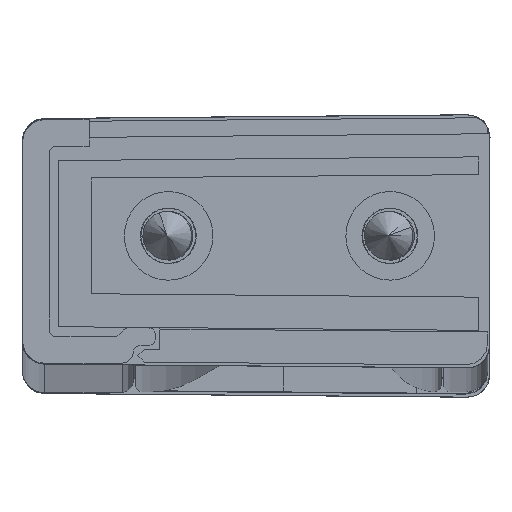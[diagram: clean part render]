
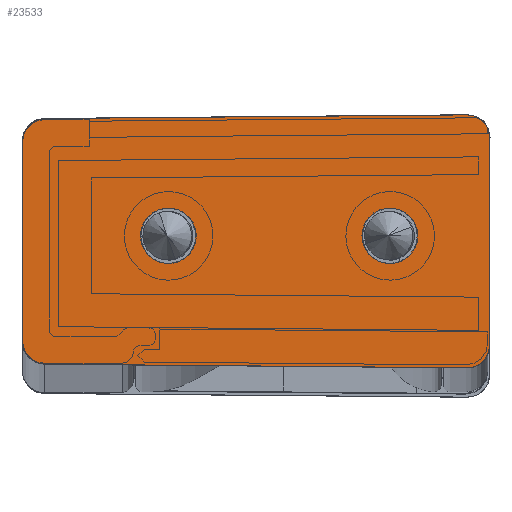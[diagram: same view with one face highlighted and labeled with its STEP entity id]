
A CAD part, top view. The second image highlights one B-rep face of the part: STEP entity #23533.
In plain terms, the highlighted planar face has unit normal (-0.009, 0, 1) as drawn and (0.009, 0, -1) by its records, which use the part's own axes.
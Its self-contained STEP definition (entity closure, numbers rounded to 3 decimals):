
#92 = CIRCLE ( 'NONE', #8722, 1. ) ;
#744 = CARTESIAN_POINT ( 'NONE',  ( 19.635, 9.395, -2.995 ) ) ;
#909 = CARTESIAN_POINT ( 'NONE',  ( 20.626, 8.395, -2.986 ) ) ;
#1184 =( BOUNDED_CURVE ( )  B_SPLINE_CURVE ( 3, ( #6183, #3702, #3490, #28652 ),
 .UNSPECIFIED., .F., .F. ) 
 B_SPLINE_CURVE_WITH_KNOTS ( ( 4, 4 ),
 ( 3.142, 4.704 ),
 .UNSPECIFIED. ) 
 CURVE ( )  GEOMETRIC_REPRESENTATION_ITEM ( )  RATIONAL_B_SPLINE_CURVE ( ( 1., 0.807, 0.807, 1. ) ) 
 REPRESENTATION_ITEM ( '' )  );
#1865 = EDGE_CURVE ( 'NONE', #6207, #10435, #14416, .T. ) ;
#2143 = CARTESIAN_POINT ( 'NONE',  ( 20.626, -0.695, -2.986 ) ) ;
#2230 = DIRECTION ( 'NONE',  ( 1., 0., 0.009 ) ) ;
#2449 = CARTESIAN_POINT ( 'NONE',  ( 14.033, 4.1, -3.043 ) ) ;
#2500 = LINE ( 'NONE', #37637, #38411 ) ;
#2682 = ORIENTED_EDGE ( 'NONE', *, *, #13259, .F. ) ;
#2705 = DIRECTION ( 'NONE',  ( 1., 0.009, 0.009 ) ) ;
#3447 = EDGE_CURVE ( 'NONE', #10435, #33207, #12596, .T. ) ;
#3490 = CARTESIAN_POINT ( 'NONE',  ( 20.217, 9.39, -2.989 ) ) ;
#3702 = CARTESIAN_POINT ( 'NONE',  ( 20.626, 8.976, -2.986 ) ) ;
#3894 = CARTESIAN_POINT ( 'NONE',  ( 20.217, -1.69, -2.989 ) ) ;
#4763 = CARTESIAN_POINT ( 'NONE',  ( 4.033, 4.1, -3.131 ) ) ;
#5516 = ORIENTED_EDGE ( 'NONE', *, *, #6646, .T. ) ;
#6183 = CARTESIAN_POINT ( 'NONE',  ( 20.626, 8.395, -2.986 ) ) ;
#6207 = VERTEX_POINT ( 'NONE', #16642 ) ;
#6412 = EDGE_LOOP ( 'NONE', ( #14484, #19732 ) ) ;
#6646 = EDGE_CURVE ( 'NONE', #7907, #18908, #28391, .T. ) ;
#6791 = CARTESIAN_POINT ( 'NONE',  ( 19.635, -1.695, -2.995 ) ) ;
#7229 = CARTESIAN_POINT ( 'NONE',  ( 0.526, 8.561, -3.161 ) ) ;
#7337 = CIRCLE ( 'NONE', #30548, 1.25 ) ;
#7907 = VERTEX_POINT ( 'NONE', #8871 ) ;
#8722 = AXIS2_PLACEMENT_3D ( 'NONE', #36938, #36539, #36347 ) ;
#8871 = CARTESIAN_POINT ( 'NONE',  ( 15.283, 4.1, -3.033 ) ) ;
#9607 = EDGE_CURVE ( 'NONE', #23650, #39837, #7337, .T. ) ;
#10315 = CARTESIAN_POINT ( 'NONE',  ( 5.283, 4.1, -3.12 ) ) ;
#10435 = VERTEX_POINT ( 'NONE', #14123 ) ;
#11215 = EDGE_CURVE ( 'NONE', #33207, #40364, #92, .T. ) ;
#11464 = VECTOR ( 'NONE', #28226, 1000. ) ;
#11579 = VERTEX_POINT ( 'NONE', #24595 ) ;
#11956 = DIRECTION ( 'NONE',  ( 1., 0., 0.009 ) ) ;
#12201 = DIRECTION ( 'NONE',  ( 1., 0., 0.009 ) ) ;
#12373 = FACE_BOUND ( 'NONE', #36930, .T. ) ;
#12596 = LINE ( 'NONE', #21768, #11464 ) ;
#13259 = EDGE_CURVE ( 'NONE', #38438, #6207, #20279, .T. ) ;
#13602 = VERTEX_POINT ( 'NONE', #909 ) ;
#14123 = CARTESIAN_POINT ( 'NONE',  ( -0.474, 8.561, -3.17 ) ) ;
#14311 = DIRECTION ( 'NONE',  ( 1., 0., 0.009 ) ) ;
#14416 = CIRCLE ( 'NONE', #25050, 1. ) ;
#14484 = ORIENTED_EDGE ( 'NONE', *, *, #9607, .T. ) ;
#14514 = DIRECTION ( 'NONE',  ( -0.009, 0., 1. ) ) ;
#15214 = DIRECTION ( 'NONE',  ( 0., 1., 0. ) ) ;
#15511 = FACE_BOUND ( 'NONE', #6412, .T. ) ;
#16473 = DIRECTION ( 'NONE',  ( 1., 0., 0.009 ) ) ;
#16642 = CARTESIAN_POINT ( 'NONE',  ( 0.535, 9.561, -3.161 ) ) ;
#17285 = DIRECTION ( 'NONE',  ( -0.009, 0., 1. ) ) ;
#17472 = EDGE_CURVE ( 'NONE', #19464, #11579, #19342, .T. ) ;
#17998 = DIRECTION ( 'NONE',  ( -0.009, 0., 1. ) ) ;
#18845 = CIRCLE ( 'NONE', #22193, 1.25 ) ;
#18908 = VERTEX_POINT ( 'NONE', #40757 ) ;
#19342 =( BOUNDED_CURVE ( )  B_SPLINE_CURVE ( 3, ( #6791, #3894, #35487, #22990 ),
 .UNSPECIFIED., .F., .F. ) 
 B_SPLINE_CURVE_WITH_KNOTS ( ( 4, 4 ),
 ( 1.58, 3.142 ),
 .UNSPECIFIED. ) 
 CURVE ( )  GEOMETRIC_REPRESENTATION_ITEM ( )  RATIONAL_B_SPLINE_CURVE ( ( 1., 0.807, 0.807, 1. ) ) 
 REPRESENTATION_ITEM ( '' )  );
#19464 = VERTEX_POINT ( 'NONE', #31141 ) ;
#19732 = ORIENTED_EDGE ( 'NONE', *, *, #31811, .T. ) ;
#19865 = DIRECTION ( 'NONE',  ( 1., 0., 0.009 ) ) ;
#20279 = LINE ( 'NONE', #744, #27121 ) ;
#20355 = ORIENTED_EDGE ( 'NONE', *, *, #38941, .F. ) ;
#21166 = DIRECTION ( 'NONE',  ( -0.009, 0., 1. ) ) ;
#21439 = AXIS2_PLACEMENT_3D ( 'NONE', #4763, #14514, #14311 ) ;
#21605 = CARTESIAN_POINT ( 'NONE',  ( 19.635, 9.395, -2.995 ) ) ;
#21725 = AXIS2_PLACEMENT_3D ( 'NONE', #28215, #40499, #11956 ) ;
#21768 = CARTESIAN_POINT ( 'NONE',  ( -0.474, 8.561, -3.17 ) ) ;
#22193 = AXIS2_PLACEMENT_3D ( 'NONE', #29585, #17285, #16473 ) ;
#22224 = DIRECTION ( 'NONE',  ( -1., 0.009, -0.009 ) ) ;
#22990 = CARTESIAN_POINT ( 'NONE',  ( 20.626, -0.695, -2.986 ) ) ;
#23140 = CARTESIAN_POINT ( 'NONE',  ( 0.535, -1.861, -3.161 ) ) ;
#23533 = ADVANCED_FACE ( 'NONE', ( #12373, #15511, #27792 ), #24240, .F. ) ;
#23650 = VERTEX_POINT ( 'NONE', #10315 ) ;
#23998 = DIRECTION ( 'NONE',  ( -0.009, 0., 1. ) ) ;
#24033 = ORIENTED_EDGE ( 'NONE', *, *, #35529, .F. ) ;
#24240 = PLANE ( 'NONE',  #21725 ) ;
#24595 = CARTESIAN_POINT ( 'NONE',  ( 20.626, -0.695, -2.986 ) ) ;
#25050 = AXIS2_PLACEMENT_3D ( 'NONE', #7229, #23998, #19865 ) ;
#25355 = ORIENTED_EDGE ( 'NONE', *, *, #17472, .F. ) ;
#27121 = VECTOR ( 'NONE', #22224, 1000. ) ;
#27792 = FACE_OUTER_BOUND ( 'NONE', #31954, .T. ) ;
#28011 = EDGE_CURVE ( 'NONE', #40364, #19464, #2500, .T. ) ;
#28215 = CARTESIAN_POINT ( 'NONE',  ( 19.626, 8.395, -2.995 ) ) ;
#28226 = DIRECTION ( 'NONE',  ( 0., -1., 0. ) ) ;
#28391 = CIRCLE ( 'NONE', #35697, 1.25 ) ;
#28652 = CARTESIAN_POINT ( 'NONE',  ( 19.635, 9.395, -2.995 ) ) ;
#29337 = CARTESIAN_POINT ( 'NONE',  ( -0.474, -0.861, -3.17 ) ) ;
#29585 = CARTESIAN_POINT ( 'NONE',  ( 14.033, 4.1, -3.043 ) ) ;
#30392 = ORIENTED_EDGE ( 'NONE', *, *, #3447, .F. ) ;
#30548 = AXIS2_PLACEMENT_3D ( 'NONE', #31162, #21166, #12201 ) ;
#31141 = CARTESIAN_POINT ( 'NONE',  ( 19.635, -1.695, -2.995 ) ) ;
#31161 = CARTESIAN_POINT ( 'NONE',  ( 2.783, 4.1, -3.142 ) ) ;
#31162 = CARTESIAN_POINT ( 'NONE',  ( 4.033, 4.1, -3.131 ) ) ;
#31765 = ORIENTED_EDGE ( 'NONE', *, *, #11215, .F. ) ;
#31811 = EDGE_CURVE ( 'NONE', #39837, #23650, #38105, .T. ) ;
#31954 = EDGE_LOOP ( 'NONE', ( #24033, #20355, #25355, #32829, #31765, #30392, #33529, #2682 ) ) ;
#32659 = VECTOR ( 'NONE', #15214, 1000. ) ;
#32829 = ORIENTED_EDGE ( 'NONE', *, *, #28011, .F. ) ;
#33016 = EDGE_CURVE ( 'NONE', #18908, #7907, #18845, .T. ) ;
#33207 = VERTEX_POINT ( 'NONE', #29337 ) ;
#33529 = ORIENTED_EDGE ( 'NONE', *, *, #1865, .F. ) ;
#35487 = CARTESIAN_POINT ( 'NONE',  ( 20.626, -1.276, -2.986 ) ) ;
#35507 = ORIENTED_EDGE ( 'NONE', *, *, #33016, .T. ) ;
#35529 = EDGE_CURVE ( 'NONE', #13602, #38438, #1184, .T. ) ;
#35697 = AXIS2_PLACEMENT_3D ( 'NONE', #2449, #17998, #2230 ) ;
#36347 = DIRECTION ( 'NONE',  ( 1., 0., 0.009 ) ) ;
#36539 = DIRECTION ( 'NONE',  ( -0.009, 0., 1. ) ) ;
#36930 = EDGE_LOOP ( 'NONE', ( #5516, #35507 ) ) ;
#36938 = CARTESIAN_POINT ( 'NONE',  ( 0.526, -0.861, -3.161 ) ) ;
#37637 = CARTESIAN_POINT ( 'NONE',  ( 0.535, -1.861, -3.161 ) ) ;
#37704 = LINE ( 'NONE', #2143, #32659 ) ;
#38105 = CIRCLE ( 'NONE', #21439, 1.25 ) ;
#38411 = VECTOR ( 'NONE', #2705, 1000. ) ;
#38438 = VERTEX_POINT ( 'NONE', #21605 ) ;
#38941 = EDGE_CURVE ( 'NONE', #11579, #13602, #37704, .T. ) ;
#39837 = VERTEX_POINT ( 'NONE', #31161 ) ;
#40364 = VERTEX_POINT ( 'NONE', #23140 ) ;
#40499 = DIRECTION ( 'NONE',  ( -0.009, 0., 1. ) ) ;
#40757 = CARTESIAN_POINT ( 'NONE',  ( 12.783, 4.1, -3.054 ) ) ;
